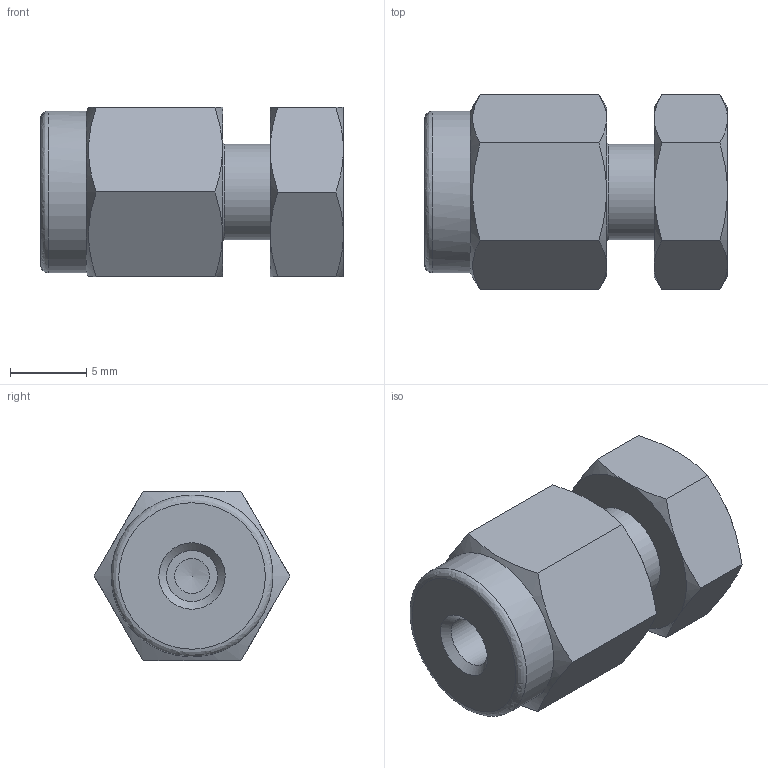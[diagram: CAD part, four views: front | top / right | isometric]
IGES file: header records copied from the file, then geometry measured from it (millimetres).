
Global section: file name: SC-2; native system: Autodesk Inventor 2016; preprocessor: unknown; author: DESIGNPC2; date: 20160312.131536; units: millimetre
Bounding box: 19.86 x 12.83 x 11.11 mm (x, y, z)
Volume: 1695 mm3; surface area: 1172.9 mm2
Topology: 1 solids, 1 shells, 44 faces, 105 edges, 66 vertices
Faces by surface type: bspline 44
